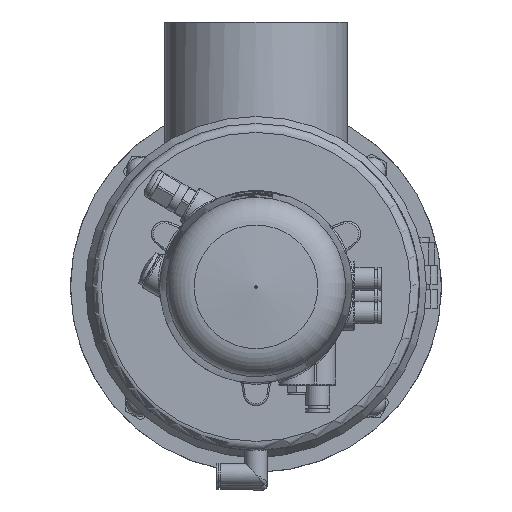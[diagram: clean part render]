
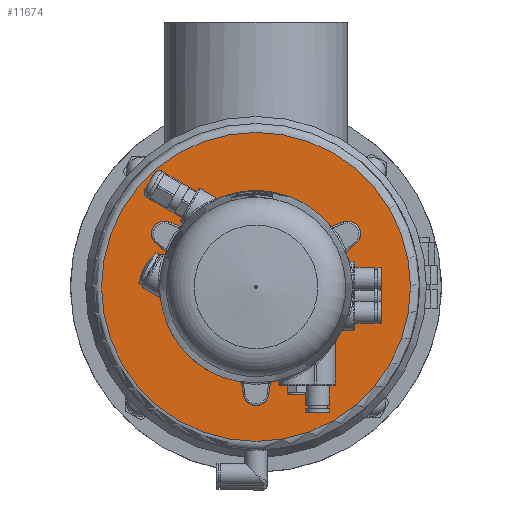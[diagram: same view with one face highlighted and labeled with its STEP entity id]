
A CAD part, front view. The second image highlights one B-rep face of the part: STEP entity #11674.
In plain terms, the highlighted planar face has unit normal (0, -1, 0) as drawn and (0, 1, 0) by its records, which use the part's own axes.
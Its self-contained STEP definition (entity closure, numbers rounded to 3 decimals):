
#80 = DIRECTION ( 'NONE',  ( 0., 1., 0. ) ) ;
#908 = CARTESIAN_POINT ( 'NONE',  ( 0., 298., 0. ) ) ;
#1238 = DIRECTION ( 'NONE',  ( 0., -1., 0. ) ) ;
#1979 = DIRECTION ( 'NONE',  ( 0., 0., 1. ) ) ;
#2945 = AXIS2_PLACEMENT_3D ( 'NONE', #36698, #7265, #1979 ) ;
#4509 = CARTESIAN_POINT ( 'NONE',  ( 0., 298., -10. ) ) ;
#7265 = DIRECTION ( 'NONE',  ( 0., 1., 0. ) ) ;
#10204 = CIRCLE ( 'NONE', #13353, 2.1 ) ;
#10308 = DIRECTION ( 'NONE',  ( 0., 0., -1. ) ) ;
#11644 = CIRCLE ( 'NONE', #51407, 87.5 ) ;
#11674 = ADVANCED_FACE ( 'NONE', ( #23818, #43815, #18928, #53974 ), #54610, .F. ) ;
#12703 = EDGE_LOOP ( 'NONE', ( #39133 ) ) ;
#12967 = CARTESIAN_POINT ( 'NONE',  ( 0., 298., -15.4 ) ) ;
#13353 = AXIS2_PLACEMENT_3D ( 'NONE', #33352, #17683, #52433 ) ;
#17683 = DIRECTION ( 'NONE',  ( 0., 1., 0. ) ) ;
#18678 = VERTEX_POINT ( 'NONE', #54356 ) ;
#18928 = FACE_OUTER_BOUND ( 'NONE', #12703, .T. ) ;
#21163 = EDGE_CURVE ( 'NONE', #18678, #18678, #10204, .T. ) ;
#21445 = VERTEX_POINT ( 'NONE', #41395 ) ;
#23818 = FACE_BOUND ( 'NONE', #46275, .T. ) ;
#26713 = EDGE_CURVE ( 'NONE', #55312, #55312, #60844, .T. ) ;
#29952 = CARTESIAN_POINT ( 'NONE',  ( 0., 298., 0. ) ) ;
#33352 = CARTESIAN_POINT ( 'NONE',  ( 0., 298., 17.5 ) ) ;
#33710 = EDGE_LOOP ( 'NONE', ( #37361 ) ) ;
#33784 = ORIENTED_EDGE ( 'NONE', *, *, #21163, .F. ) ;
#33819 = AXIS2_PLACEMENT_3D ( 'NONE', #51014, #39504, #64744 ) ;
#36698 = CARTESIAN_POINT ( 'NONE',  ( 0., 298., -17.5 ) ) ;
#37361 = ORIENTED_EDGE ( 'NONE', *, *, #26713, .T. ) ;
#39133 = ORIENTED_EDGE ( 'NONE', *, *, #62303, .T. ) ;
#39504 = DIRECTION ( 'NONE',  ( 0., -1., 0. ) ) ;
#40997 = AXIS2_PLACEMENT_3D ( 'NONE', #908, #1238, #45549 ) ;
#41395 = CARTESIAN_POINT ( 'NONE',  ( 0., 298., -87.5 ) ) ;
#41547 = ORIENTED_EDGE ( 'NONE', *, *, #50356, .F. ) ;
#43815 = FACE_BOUND ( 'NONE', #44780, .T. ) ;
#44780 = EDGE_LOOP ( 'NONE', ( #33784 ) ) ;
#45549 = DIRECTION ( 'NONE',  ( 0., 0., -1. ) ) ;
#45965 = CIRCLE ( 'NONE', #2945, 2.1 ) ;
#46275 = EDGE_LOOP ( 'NONE', ( #41547 ) ) ;
#50356 = EDGE_CURVE ( 'NONE', #53908, #53908, #45965, .T. ) ;
#51014 = CARTESIAN_POINT ( 'NONE',  ( -92.5, 298., 0. ) ) ;
#51407 = AXIS2_PLACEMENT_3D ( 'NONE', #29952, #80, #10308 ) ;
#52433 = DIRECTION ( 'NONE',  ( 0., 0., 1. ) ) ;
#53908 = VERTEX_POINT ( 'NONE', #12967 ) ;
#53974 = FACE_BOUND ( 'NONE', #33710, .T. ) ;
#54356 = CARTESIAN_POINT ( 'NONE',  ( 0., 298., 19.6 ) ) ;
#54610 = PLANE ( 'NONE',  #33819 ) ;
#55312 = VERTEX_POINT ( 'NONE', #4509 ) ;
#60844 = CIRCLE ( 'NONE', #40997, 10. ) ;
#62303 = EDGE_CURVE ( 'NONE', #21445, #21445, #11644, .T. ) ;
#64744 = DIRECTION ( 'NONE',  ( 0., 0., -1. ) ) ;
